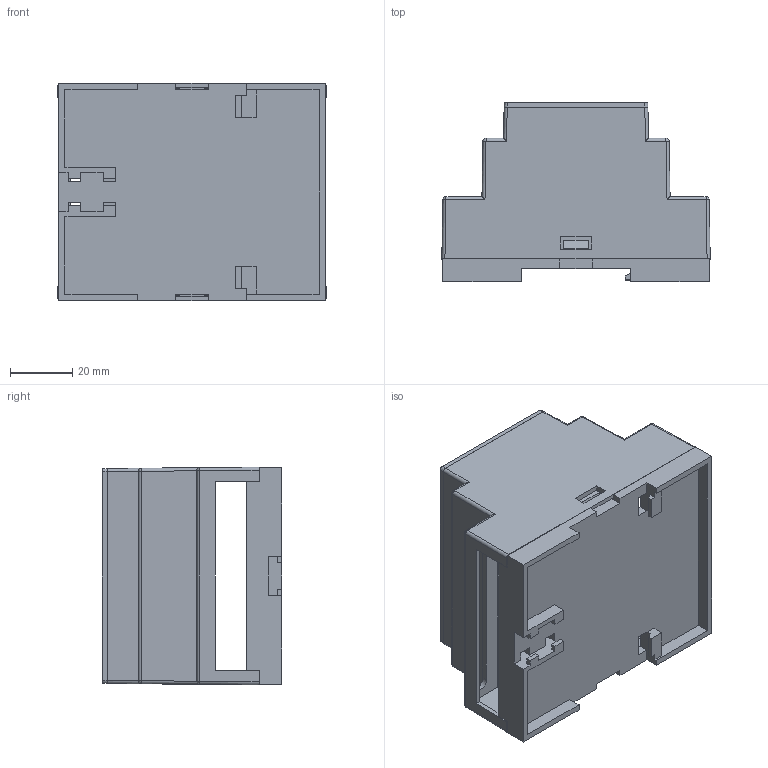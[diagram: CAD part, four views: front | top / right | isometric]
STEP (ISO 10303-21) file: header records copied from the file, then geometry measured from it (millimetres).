
FILE_DESCRIPTION (( 'STEP AP203' ), '1' );
FILE_NAME ('RT-104-C.STEP', '2021-11-19T06:11:40', ( '' ), ( '' ), 'SwSTEP 2.0', 'SolidWorks 2021', '' );
FILE_SCHEMA (( 'CONFIG_CONTROL_DESIGN' ));
Length unit declared in the file: millimetre
Products named in the file (4): govde; cam; RT-104-C; parça 2
Assembly tree (3 placements, depth 2):
  RT-104-C
    govde
    cam
    parça 2
Bounding box: 86.3 x 57.7 x 70 mm (x, y, z)
Volume: 54257.5 mm3; surface area: 59249.1 mm2
Topology: 3 solids, 3 shells, 401 faces, 1128 edges, 736 vertices
Faces by surface type: plane 295, cylinder 58, bspline 32, sphere 8, cone 8
Entity records: 13356 total; most frequent: CARTESIAN_POINT 2683, ORIENTED_EDGE 2240, DIRECTION 1978, EDGE_CURVE 1120, LINE 924, VECTOR 924, VERTEX_POINT 736, AXIS2_PLACEMENT_3D 527
